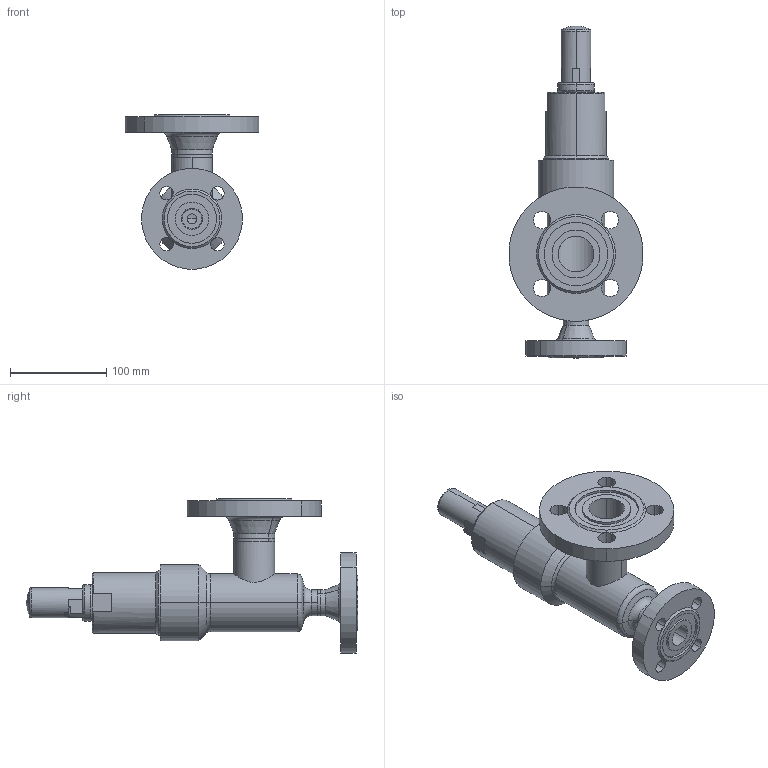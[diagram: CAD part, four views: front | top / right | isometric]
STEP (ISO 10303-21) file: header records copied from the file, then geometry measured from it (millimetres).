
FILE_DESCRIPTION (( 'STEP AP214' ), '1' );
FILE_NAME ('SVU 45820D11-DN20(32)_DIN.STEP', '2010-06-07T11:14:59', ( 'Eckhard Grams' ), ( 'AWP Kälte Klima Armaturen GmbH' ), 'SwSTEP 2.0', 'SolidWorks 2002296', '' );
FILE_SCHEMA (( 'AUTOMOTIVE_DESIGN' ));
Length unit declared in the file: millimetre
Products named in the file (11): SVU 45820D11-DN20(32)_DIN; Gehkpl 45720E11-5030001; Rohrstutzen-A 45700E11-5036004_DN20(32)_Standard; Geh 45700E11-5034004_DN20; Flansch-DIN2635-Nut_PS40_DIN-Flansch-DN020_PS40-Nut; Flansch-DIN2635-Nut_PS40_DIN-Flansch-DN032_PS40-Nut; bead Geh,kpl 45720E11-2_Standard; bead Geh,kpl 45720E11-1_Standard; Flachdichtg-Alu-DN20-25; Haube 45700E11-5260003_DN20-25; Kappe SVA-SVU-ORV_DN10-40 (M27x1,5)_Standard
Assembly tree (10 placements, depth 3):
  SVU 45820D11-DN20(32)_DIN
    Kappe SVA-SVU-ORV_DN10-40 (M27x1,5)_Standard
    Gehkpl 45720E11-5030001
      Geh 45700E11-5034004_DN20
      Flansch-DIN2635-Nut_PS40_DIN-Flansch-DN020_PS40-Nut
      bead Geh,kpl 45720E11-1_Standard
      Rohrstutzen-A 45700E11-5036004_DN20(32)_Standard
      Flansch-DIN2635-Nut_PS40_DIN-Flansch-DN032_PS40-Nut
      bead Geh,kpl 45720E11-2_Standard
    Haube 45700E11-5260003_DN20-25
    Flachdichtg-Alu-DN20-25
Bounding box: 139.47 x 345.5 x 160.3 mm (x, y, z)
Volume: 755138.7 mm3; surface area: 210737.3 mm2
Topology: 9 solids, 9 shells, 257 faces, 612 edges, 381 vertices
Faces by surface type: cylinder 123, plane 49, cone 45, torus 26, bspline 10, sphere 4
Entity records: 13850 total; most frequent: CARTESIAN_POINT 7125, DIRECTION 1316, ORIENTED_EDGE 1224, EDGE_CURVE 612, AXIS2_PLACEMENT_3D 557, VERTEX_POINT 381, EDGE_LOOP 301, CIRCLE 296
